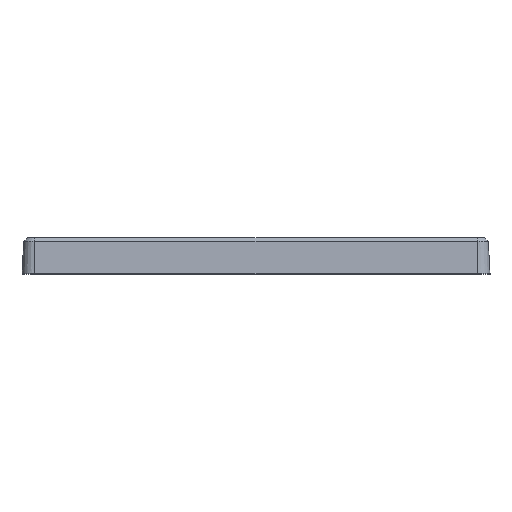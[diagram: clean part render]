
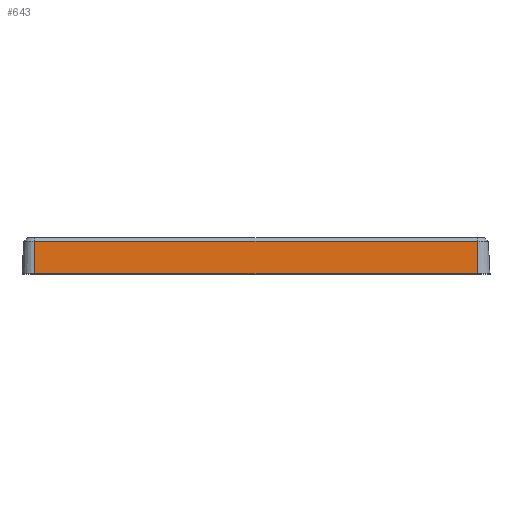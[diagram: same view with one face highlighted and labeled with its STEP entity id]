
A CAD part, top view. The second image highlights one B-rep face of the part: STEP entity #643.
In plain terms, the highlighted planar face has unit normal (0, 0.052, 0.999).
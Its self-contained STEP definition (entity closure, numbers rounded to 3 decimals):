
#587 = VERTEX_POINT ( 'NONE', #1851 ) ;
#588 = VERTEX_POINT ( 'NONE', #1850 ) ;
#589 = ORIENTED_EDGE ( 'NONE', *, *, #590, .T. ) ;
#590 = EDGE_CURVE ( 'NONE', #587, #826, #1849, .T. ) ;
#591 = ORIENTED_EDGE ( 'NONE', *, *, #825, .T. ) ;
#592 = ORIENTED_EDGE ( 'NONE', *, *, #593, .T. ) ;
#593 = EDGE_CURVE ( 'NONE', #737, #588, #1845, .T. ) ;
#643 = ADVANCED_FACE ( 'NONE', ( #1748 ), #1747, .T. ) ;
#644 = EDGE_LOOP ( 'NONE', ( #645, #589, #591, #592 ) ) ;
#645 = ORIENTED_EDGE ( 'NONE', *, *, #646, .F. ) ;
#646 = EDGE_CURVE ( 'NONE', #587, #588, #1742, .T. ) ;
#737 = VERTEX_POINT ( 'NONE', #2094 ) ;
#825 = EDGE_CURVE ( 'NONE', #826, #737, #2266, .T. ) ;
#826 = VERTEX_POINT ( 'NONE', #2262 ) ;
#1739 = DIRECTION ( 'NONE',  ( 0., -0.999, 0.052 ) ) ;
#1740 = VECTOR ( 'NONE', #1739, 1000. ) ;
#1741 = CARTESIAN_POINT ( 'NONE',  ( 61.5, 0., 65. ) ) ;
#1742 = LINE ( 'NONE', #1741, #1740 ) ;
#1743 = DIRECTION ( 'NONE',  ( 0., -0.999, 0.052 ) ) ;
#1744 = DIRECTION ( 'NONE',  ( 0., 0.052, 0.999 ) ) ;
#1745 = CARTESIAN_POINT ( 'NONE',  ( -61.5, 0., 65. ) ) ;
#1746 = AXIS2_PLACEMENT_3D ( 'NONE', #1745, #1744, #1743 ) ;
#1747 = PLANE ( 'NONE',  #1746 ) ;
#1748 = FACE_OUTER_BOUND ( 'NONE', #644, .T. ) ;
#1842 = DIRECTION ( 'NONE',  ( 1., 0., 0. ) ) ;
#1843 = VECTOR ( 'NONE', #1842, 1000. ) ;
#1844 = CARTESIAN_POINT ( 'NONE',  ( -61.5, 0., 65. ) ) ;
#1845 = LINE ( 'NONE', #1844, #1843 ) ;
#1846 = DIRECTION ( 'NONE',  ( -1., 0., 0. ) ) ;
#1847 = VECTOR ( 'NONE', #1846, 1000. ) ;
#1848 = CARTESIAN_POINT ( 'NONE',  ( -61.5, 8.945, 64.531 ) ) ;
#1849 = LINE ( 'NONE', #1848, #1847 ) ;
#1850 = CARTESIAN_POINT ( 'NONE',  ( 61.5, 0., 65. ) ) ;
#1851 = CARTESIAN_POINT ( 'NONE',  ( 61.5, 8.945, 64.531 ) ) ;
#2094 = CARTESIAN_POINT ( 'NONE',  ( -61.5, 0., 65. ) ) ;
#2262 = CARTESIAN_POINT ( 'NONE',  ( -61.5, 8.945, 64.531 ) ) ;
#2263 = DIRECTION ( 'NONE',  ( 0., -0.999, 0.052 ) ) ;
#2264 = VECTOR ( 'NONE', #2263, 1000. ) ;
#2265 = CARTESIAN_POINT ( 'NONE',  ( -61.5, 0., 65. ) ) ;
#2266 = LINE ( 'NONE', #2265, #2264 ) ;
